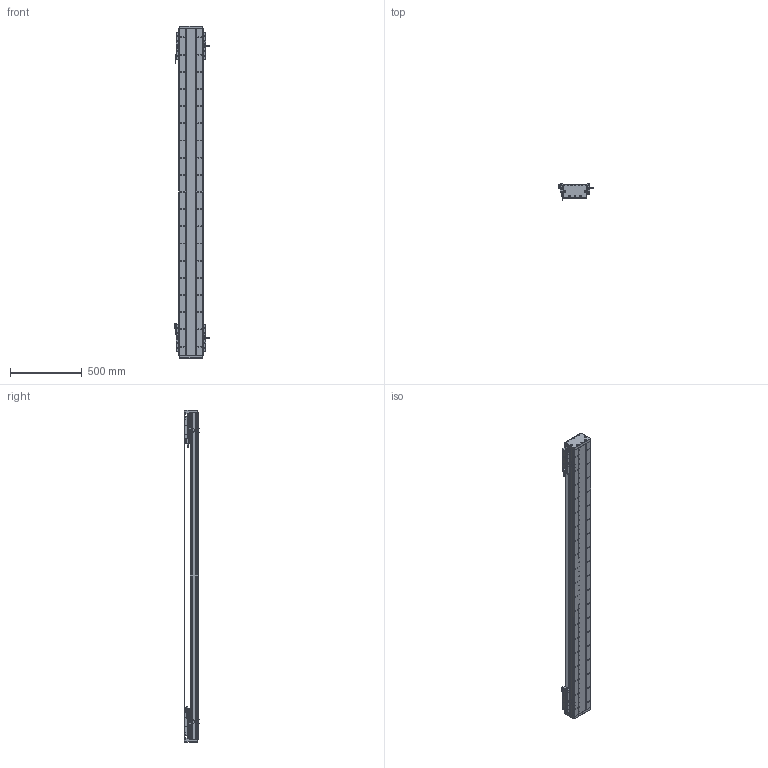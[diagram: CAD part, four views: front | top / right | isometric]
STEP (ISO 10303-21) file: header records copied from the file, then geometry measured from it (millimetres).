
FILE_DESCRIPTION (( 'STEP AP203' ), '1' );
FILE_NAME ('DA-C165-2-C2-T1820-C010-0.2 直线电机.STEP', '2023-05-11T08:24:45', ( '微软用户' ), ( '微软中国' ), 'SwSTEP 2.0', 'SolidWorks 2019', '' );
FILE_SCHEMA (( 'CONFIG_CONTROL_DESIGN' ));
Length unit declared in the file: millimetre
Products named in the file (22): 复件 DA126-GYP-ZJ-00 中间光电感应片^DA-C165-C2-T-C010-0.2-N 直线电机; DA-C165-2-C2-T1820-C010-0.2 眻盄萇儂; 复件 DA165-GYP-00 光电感应片^DA-C165-C2-T-C010-0.2-N 直线电机; IU-CU165-L-00 菁釱_L2280; 葩璃 PM-Y45^DA-C165-C2-T-C010-0.2-N 眻盄萇儂; IU-CU165-L 菁釱絳寢; 葩璃 CKM01-W075-TRL^DA-C165-C2-T-C010-0.2-N 眻盄萇儂; 葩璃 PM-T45^DA-C165-C2-T-C010-0.2-N 眻盄萇儂; 复件 DA165-GDLK-00 钢带拉块^复件 CU165钢带组件_DA-C165-C2-T-C010-0.2-N 直线电机; 复件 DA165-GD-1860-002-00 钢带盖板^复件 CU165钢带组件_DA-C165-C2-T-C010-0.2-N 直线电机; 复件 六角薄螺母 M3^DA-C165-C2-T-C010-0.2-N 直线电机_GB_FASTENER_NUT_STNAB M3-C; 复件 66338-1000-006-00 光电感应块^DA-C165-C2-T-C010-0.2-N 直线电机; 复件 DKW-HXJ-JY-00 缓冲橡胶^DA-C165-C2-T-C010-0.2-N 直线电机; 复件 CU165钢带组件^DA-C165-C2-T-C010-0.2-N 直线电机; 复件 CKM02-W075-C1C2-TP-3.0 一体电机-C2^DA-C165-C2-T-C010-0.2-N 直线电机; 复件 DMA-010-0.2 读数头^DA-C165-C2-T-C010-0.2-N 直线电机; 复件 DA165-GDYK-00 钢带压块^复件 CU165钢带组件_DA-C165-C2-T-C010-0.2-N 直线电机; 珨极趙賑雄怢啣wf-C2; 复件 DA95-HXJ-00 缓冲橡胶^DA-C165-C2-T-C010-0.2-N 直线电机; 复件 XD-U-02L 磁栅尺^DA-C165-C2-T-C010-0.2-N 直线电机_T; 葩璃 DA95-GT-T-00^IU-CU165-L 菁釱絳寢_T; 复件 DA165-GD-DG-H-00 端盖^复件 CU165钢带组件_DA-C165-C2-T-C010-0.2-N 直线电机
Assembly tree (43 placements, depth 3):
  DA-C165-2-C2-T1820-C010-0.2 眻盄萇儂
    IU-CU165-L 菁釱絳寢
      IU-CU165-L-00 菁釱_L2280
      葩璃 DA95-GT-T-00^IU-CU165-L 菁釱絳寢_T  x4
    复件 XD-U-02L 磁栅尺^DA-C165-C2-T-C010-0.2-N 直线电机_T
    葩璃 PM-T45^DA-C165-C2-T-C010-0.2-N 眻盄萇儂  x4
    葩璃 CKM01-W075-TRL^DA-C165-C2-T-C010-0.2-N 眻盄萇儂
    复件 CU165钢带组件^DA-C165-C2-T-C010-0.2-N 直线电机
      复件 DA165-GD-DG-H-00 端盖^复件 CU165钢带组件_DA-C165-C2-T-C010-0.2-N 直线电机  x2
      复件 DA165-GDYK-00 钢带压块^复件 CU165钢带组件_DA-C165-C2-T-C010-0.2-N 直线电机  x2
      复件 DA165-GD-1860-002-00 钢带盖板^复件 CU165钢带组件_DA-C165-C2-T-C010-0.2-N 直线电机
      复件 DA165-GDLK-00 钢带拉块^复件 CU165钢带组件_DA-C165-C2-T-C010-0.2-N 直线电机  x2
    复件 DA95-HXJ-00 缓冲橡胶^DA-C165-C2-T-C010-0.2-N 直线电机  x4
    复件 CKM02-W075-C1C2-TP-3.0 一体电机-C2^DA-C165-C2-T-C010-0.2-N 直线电机  x2
    复件 DMA-010-0.2 读数头^DA-C165-C2-T-C010-0.2-N 直线电机  x2
    复件 DA165-GYP-00 光电感应片^DA-C165-C2-T-C010-0.2-N 直线电机  x2
    复件 66338-1000-006-00 光电感应块^DA-C165-C2-T-C010-0.2-N 直线电机
    葩璃 PM-Y45^DA-C165-C2-T-C010-0.2-N 眻盄萇儂
    复件 DA126-GYP-ZJ-00 中间光电感应片^DA-C165-C2-T-C010-0.2-N 直线电机
    复件 DKW-HXJ-JY-00 缓冲橡胶^DA-C165-C2-T-C010-0.2-N 直线电机  x2
    复件 六角薄螺母 M3^DA-C165-C2-T-C010-0.2-N 直线电机_GB_FASTENER_NUT_STNAB M3-C  x6
    珨极趙賑雄怢啣wf-C2  x2
Bounding box: 247.2 x 111.45 x 2320 mm (x, y, z)
Volume: 14742095.2 mm3; surface area: 4224932.9 mm2
Topology: 119 solids, 119 shells, 5495 faces, 15282 edges, 9620 vertices
Faces by surface type: cylinder 2908, plane 1795, cone 704, torus 80, sphere 8
Entity records: 127988 total; most frequent: CARTESIAN_POINT 33337, ORIENTED_EDGE 19508, DIRECTION 19000, EDGE_CURVE 9754, AXIS2_PLACEMENT_3D 7196, VERTEX_POINT 6357, VECTOR 4608, LINE 4608
